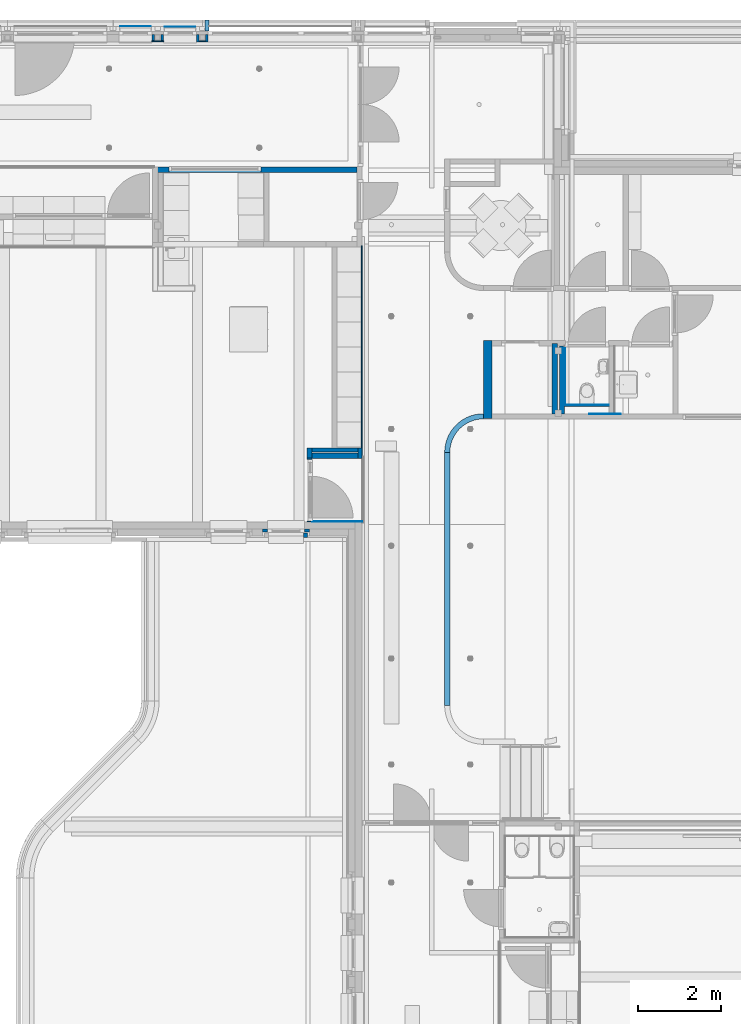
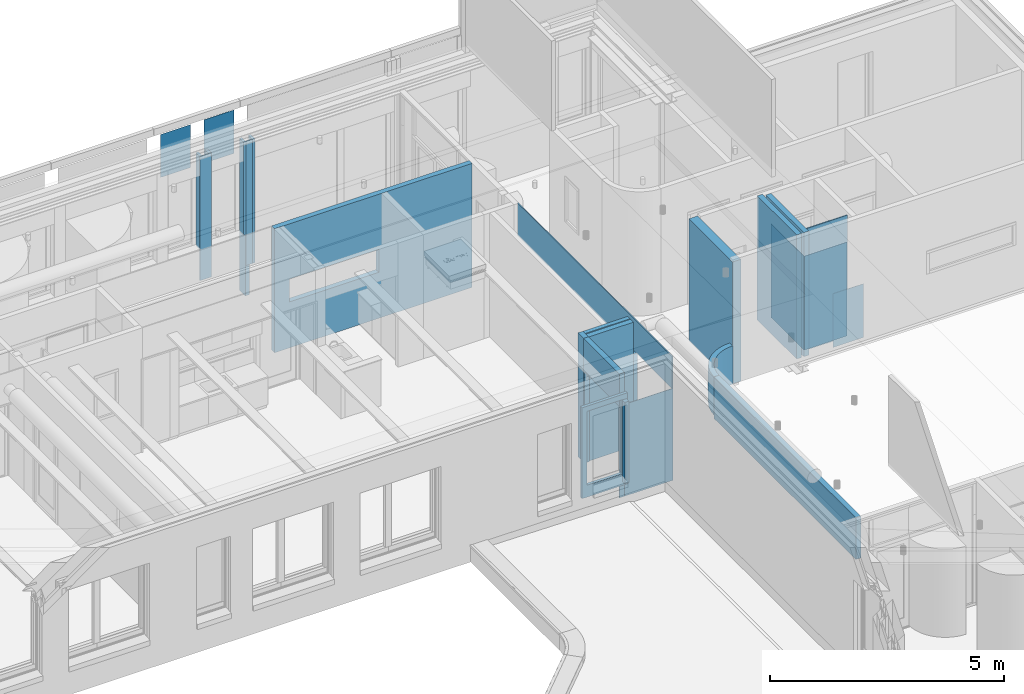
# One storey, part 55 of 128: 28 walls, 6 openings.
"""IFC2X3 building model written with IfcOpenShell, lengths in millimetres."""

from ifc_helpers import new_model, entity, si_unit, converted_unit, derived_unit, direction, frame, frame_2d, origin, place, context, subcontext, project, spatial, polyline, circle_curve, parameter, trimmed, segment, composite_curve, rectangle, outline, extrude, material, layer, layer_set, layer_usage, type_object, element, save


model = new_model("IFC2X3")

# Units and contexts
model_context = context("Model", 3, precision=0.01, world=origin(), true_north=direction((6.123031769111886e-17, 1.0)))
body_context = subcontext(model_context, "Body", "Model", "MODEL_VIEW")
ifc_project = project(units=[si_unit("LENGTHUNIT", "METRE", prefix="MILLI"), si_unit("AREAUNIT", "SQUARE_METRE"), si_unit("VOLUMEUNIT", "CUBIC_METRE"), converted_unit("PLANEANGLEUNIT", "DEGREE", entity("IfcRatioMeasure", 0.017453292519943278), si_unit("PLANEANGLEUNIT", "RADIAN"), dimensions=[0, 0, 0, 0, 0, 0, 0]), si_unit("MASSUNIT", "GRAM", prefix="KILO"), derived_unit("MASSDENSITYUNIT", [(si_unit("MASSUNIT", "GRAM", prefix="KILO"), 1), (si_unit("LENGTHUNIT", "METRE"), -3)]), derived_unit("IONCONCENTRATIONUNIT", [(si_unit("MASSUNIT", "GRAM", prefix="KILO"), 1), (si_unit("LENGTHUNIT", "METRE"), -3)]), derived_unit("MOMENTOFINERTIAUNIT", [(si_unit("LENGTHUNIT", "METRE"), 4)]), si_unit("TIMEUNIT", "SECOND"), si_unit("FREQUENCYUNIT", "HERTZ"), si_unit("THERMODYNAMICTEMPERATUREUNIT", "DEGREE_CELSIUS"), derived_unit("THERMALTRANSMITTANCEUNIT", [(si_unit("MASSUNIT", "GRAM", prefix="KILO"), 1), (si_unit("THERMODYNAMICTEMPERATUREUNIT", "KELVIN"), -1), (si_unit("TIMEUNIT", "SECOND"), -3)]), derived_unit("THERMALCONDUCTANCEUNIT", [(si_unit("MASSUNIT", "GRAM", prefix="KILO"), 1), (si_unit("THERMODYNAMICTEMPERATUREUNIT", "KELVIN"), -1), (si_unit("TIMEUNIT", "SECOND"), -3), (si_unit("LENGTHUNIT", "METRE"), 1)]), derived_unit("VOLUMETRICFLOWRATEUNIT", [(si_unit("LENGTHUNIT", "METRE"), 3), (si_unit("TIMEUNIT", "SECOND"), -1)]), derived_unit("MASSFLOWRATEUNIT", [(si_unit("MASSUNIT", "GRAM", prefix="KILO"), 1), (si_unit("TIMEUNIT", "SECOND"), -1)]), derived_unit("ROTATIONALFREQUENCYUNIT", [(si_unit("TIMEUNIT", "SECOND"), -1)]), si_unit("ELECTRICCURRENTUNIT", "AMPERE"), si_unit("ELECTRICVOLTAGEUNIT", "VOLT"), si_unit("POWERUNIT", "WATT"), si_unit("FORCEUNIT", "NEWTON", prefix="KILO"), si_unit("ILLUMINANCEUNIT", "LUX"), si_unit("LUMINOUSFLUXUNIT", "LUMEN"), si_unit("LUMINOUSINTENSITYUNIT", "CANDELA"), derived_unit("USERDEFINED", [(si_unit("MASSUNIT", "GRAM", prefix="KILO"), -1), (si_unit("LENGTHUNIT", "METRE"), -2), (si_unit("TIMEUNIT", "SECOND"), 3), (si_unit("LUMINOUSFLUXUNIT", "LUMEN"), 1)]), derived_unit("USERDEFINED", [(si_unit("MASSUNIT", "GRAM", prefix="KILO"), 1), (si_unit("TIMEUNIT", "SECOND"), -3), (si_unit("LENGTHUNIT", "METRE"), 3), (si_unit("ELECTRICCURRENTUNIT", "AMPERE"), -2)]), derived_unit("SOUNDPOWERUNIT", [(si_unit("MASSUNIT", "GRAM", prefix="KILO"), 1), (si_unit("TIMEUNIT", "SECOND"), -3), (si_unit("LENGTHUNIT", "METRE"), 2)]), derived_unit("SOUNDPRESSUREUNIT", [(si_unit("MASSUNIT", "GRAM", prefix="KILO"), 1), (si_unit("LENGTHUNIT", "METRE"), -1), (si_unit("TIMEUNIT", "SECOND"), -2)]), derived_unit("LINEARVELOCITYUNIT", [(si_unit("LENGTHUNIT", "METRE"), 1), (si_unit("TIMEUNIT", "SECOND"), -1)]), si_unit("PRESSUREUNIT", "PASCAL"), derived_unit("USERDEFINED", [(si_unit("MASSUNIT", "GRAM", prefix="KILO"), 1), (si_unit("LENGTHUNIT", "METRE"), -2), (si_unit("TIMEUNIT", "SECOND"), -2)]), derived_unit("LINEARFORCEUNIT", [(si_unit("MASSUNIT", "GRAM", prefix="KILO"), 1), (si_unit("TIMEUNIT", "SECOND"), -2)]), derived_unit("PLANARFORCEUNIT", [(si_unit("MASSUNIT", "GRAM", prefix="KILO"), 1), (si_unit("LENGTHUNIT", "METRE"), -1), (si_unit("TIMEUNIT", "SECOND"), -2)]), derived_unit("SPECIFICHEATCAPACITYUNIT", [(si_unit("THERMODYNAMICTEMPERATUREUNIT", "KELVIN"), -1), (si_unit("LENGTHUNIT", "METRE"), 2), (si_unit("TIMEUNIT", "SECOND"), -2)]), derived_unit("HEATINGVALUEUNIT", [(si_unit("LENGTHUNIT", "METRE"), 2), (si_unit("TIMEUNIT", "SECOND"), -2)]), derived_unit("VAPORPERMEABILITYUNIT", [(si_unit("LENGTHUNIT", "METRE"), -1), (si_unit("TIMEUNIT", "SECOND"), 1)]), derived_unit("DYNAMICVISCOSITYUNIT", [(si_unit("MASSUNIT", "GRAM", prefix="KILO"), 1), (si_unit("TIMEUNIT", "SECOND"), -1), (si_unit("LENGTHUNIT", "METRE"), -1)]), derived_unit("THERMALEXPANSIONCOEFFICIENTUNIT", [(si_unit("THERMODYNAMICTEMPERATUREUNIT", "KELVIN"), -1)]), derived_unit("MODULUSOFELASTICITYUNIT", [(si_unit("MASSUNIT", "GRAM", prefix="KILO"), 1), (si_unit("LENGTHUNIT", "METRE"), -1), (si_unit("TIMEUNIT", "SECOND"), -2)]), derived_unit("ISOTHERMALMOISTURECAPACITYUNIT", [(si_unit("LENGTHUNIT", "METRE"), 3), (si_unit("MASSUNIT", "GRAM", prefix="KILO"), -1)]), derived_unit("MOISTUREDIFFUSIVITYUNIT", [(si_unit("TIMEUNIT", "SECOND"), -1), (si_unit("LENGTHUNIT", "METRE"), 2)])], contexts=[model_context])

# Site, building, storey
site_placement = place(None, frame((0.0, 300.0, 0.0)))
site = spatial("IfcSite", under=ifc_project, at=site_placement, Name="<Kadastrale nummers>", CompositionType="ELEMENT")
building_placement = place(site_placement, origin())
building = spatial("IfcBuilding", under=site, at=building_placement, CompositionType="ELEMENT")
storey_placement = place(building_placement, frame((0.0, 0.0, 3560.0000331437)))
storey = spatial("IfcBuildingStorey", under=building, at=storey_placement, Name="01 eerste verdieping", CompositionType="ELEMENT", Elevation=3560.0000331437)

# Walls
ifc_material_1 = material(Name="ISR_Metselwerk")
ifc_layer_1 = layer(ifc_material_1, 100.0)
ifc_layer_set_1 = layer_set([ifc_layer_1], Name="Basic Wall:21_DAT_metselwerk_100")
ifc_layer_usage_1 = layer_usage(ifc_layer_set_1, "AXIS2", "POSITIVE", -50.0)
wall_type_1 = type_object("IfcWallType", Name="Basic Wall:21_DAT_metselwerk_100", PredefinedType="STANDARD", material=ifc_layer_set_1)
wall_1_placement = place(storey_placement, frame((32980.0, 49960.0, -910.0000331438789), z_axis=(0.0, 0.0, 1.0), x_axis=(0.0, 1.0, 0.0)))
element("IfcWallStandardCase", 1, at=wall_1_placement, inside=storey, type_object=wall_type_1, material=ifc_layer_usage_1, Name="Basic Wall:21_DAT_metselwerk_100", ObjectType="Basic Wall:21_DAT_metselwerk_100", context=body_context, shape_type="SweptSolid", body=[
    extrude(rectangle(XDim=264.99999999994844, YDim=100.00000000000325, at=frame_2d((132.49999999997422, 0.0), x_axis=(-1.0, 0.0))), origin(), (0.0, 0.0, 1.0), 1800.0000350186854),
])
ifc_layer_usage_2 = layer_usage(ifc_layer_set_1, "AXIS2", "NEGATIVE", 50.0)
wall_2_placement = place(storey_placement, frame((35344.0, 37825.0, 715.0000018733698), z_axis=(0.0, 0.0, 1.0), x_axis=(0.0, 1.0, 0.0)))
element("IfcWallStandardCase", 2, at=wall_2_placement, inside=storey, type_object=wall_type_1, material=ifc_layer_usage_2, Name="Basic Wall:21_DAT_metselwerk_100", ObjectType="Basic Wall:21_DAT_metselwerk_100", context=body_context, shape_type="SweptSolid", body=[
    extrude(rectangle(XDim=110.00000000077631, YDim=100.00000000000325, at=frame_2d((55.000000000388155, -8.171241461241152e-14), x_axis=(-1.0, 0.0))), origin(), (0.0, 0.0, 1.0), 2125.0000000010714),
])
ifc_material_2 = material(Name="ISR_Gips")
ifc_layer_2 = layer(ifc_material_2, 1.0)
ifc_material_3 = material(Name="ISR_Binnenwand")
ifc_layer_3 = layer(ifc_material_3, 123.0)
ifc_layer_4 = layer(ifc_material_2, 1.0)
ifc_layer_set_2 = layer_set([ifc_layer_2, ifc_layer_3, ifc_layer_4], Name="Basic Wall:22_DAT_binnenwand_125")
ifc_layer_usage_3 = layer_usage(ifc_layer_set_2, "AXIS2", "NEGATIVE", 62.50000000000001)
wall_type_2 = type_object("IfcWallType", Name="Basic Wall:22_DAT_binnenwand_125", PredefinedType="STANDARD", material=ifc_layer_set_2)
wall_3_placement = place(storey_placement, frame((38737.500000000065, 33795.0, 0.0), z_axis=(0.0, 0.0, 1.0), x_axis=(0.0, 1.0, 0.0)))
element("IfcWallStandardCase", 3, at=wall_3_placement, inside=storey, type_object=wall_type_2, material=ifc_layer_usage_3, Name="Basic Wall:22_DAT_binnenwand_125", ObjectType="Basic Wall:22_DAT_binnenwand_125", context=body_context, shape_type="SweptSolid", body=[
    extrude(rectangle(XDim=6070.000000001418, YDim=124.99999999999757, at=frame_2d((3035.000000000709, 0.0), x_axis=(-1.0, 0.0))), origin(), (0.0, 0.0, 1.0), 1090.0000000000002),
])
wall_4_placement = place(storey_placement, frame((39599.99980045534, 40727.50000000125, 90.00000187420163), z_axis=(0.0, 0.0, 1.0), x_axis=(-1.0, 0.0, 0.0)))
element("IfcWallStandardCase", 4, at=wall_4_placement, inside=storey, type_object=wall_type_2, material=ifc_layer_usage_3, Name="Basic Wall:22_DAT_binnenwand_125", ObjectType="Basic Wall:22_DAT_binnenwand_125", context=body_context, shape_type="SweptSolid", body=[
    extrude(outline(composite_curve([segment(trimmed(circle_curve(frame_2d((-0.00019954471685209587, 862.4999999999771), x_axis=(1.0, 0.0)), 800.0), [parameter(270.0000132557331)], [parameter(7.124442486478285e-13)], True, "PARAMETER"), False, "CONTINUOUS"), segment(polyline([(-1.4459758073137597e-05, 62.49999999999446), (1.4459758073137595e-05, -62.49999999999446)]), True, "CONTINUOUS"), segment(trimmed(circle_curve(frame_2d((-0.00019954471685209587, 862.4999999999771), x_axis=(1.0, 0.0)), 925.0000000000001), [parameter(270.0000132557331)], [parameter(6.87457811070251e-13)], True, "PARAMETER"), True, "CONTINUOUS"), segment(polyline([(924.999800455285, 862.4999999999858), (799.9998004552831, 862.4999999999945)]), True, "CONTINUOUS")], self_intersect=False)), origin(), (0.0, 0.0, 1.0), 1000.0000000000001),
])
wall_5_placement = place(storey_placement, frame((41487.50000000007, 40790.0, 90.00000187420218), z_axis=(0.0, 0.0, 1.0), x_axis=(0.0, 1.0, 0.0)))
element("IfcWallStandardCase", 5, at=wall_5_placement, inside=storey, type_object=wall_type_2, material=ifc_layer_usage_3, Name="Basic Wall:22_DAT_binnenwand_125", ObjectType="Basic Wall:22_DAT_binnenwand_125", context=body_context, shape_type="SweptSolid", body=[
    extrude(rectangle(XDim=1625.1250026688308, YDim=125.00000000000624, at=frame_2d((812.5625013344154, 0.0), x_axis=(-1.0, 0.0))), origin(), (0.0, 0.0, 1.0), 3239.9999999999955),
])
wall_6_placement = place(storey_placement, frame((41312.500000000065, 40790.0, 90.0000018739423), z_axis=(0.0, 0.0, 1.0), x_axis=(0.0, 1.0, 0.0)))
element("IfcWallStandardCase", 6, at=wall_6_placement, inside=storey, type_object=wall_type_2, material=ifc_layer_usage_3, Name="Basic Wall:22_DAT_binnenwand_125", ObjectType="Basic Wall:22_DAT_binnenwand_125", context=body_context, shape_type="SweptSolid", body=[
    extrude(rectangle(XDim=1689.6250026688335, YDim=125.00000000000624, at=frame_2d((844.8125013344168, 0.0), x_axis=(-1.0, 0.0))), origin(), (0.0, 0.0, 1.0), 3240.0000290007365),
])

# Wall, opening
wall_7_placement = place(storey_placement, frame((31692.0, 46637.49999999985, 90.00000187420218)))
wall_7 = element("IfcWallStandardCase", 7, at=wall_7_placement, inside=storey, type_object=wall_type_2, material=ifc_layer_usage_3, Name="Basic Wall:22_DAT_binnenwand_125", ObjectType="Basic Wall:22_DAT_binnenwand_125", context=body_context, shape_type="SweptSolid", body=[
    extrude(rectangle(XDim=4883.000000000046, YDim=125.00000000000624, at=frame_2d((2441.500000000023, -1.1013412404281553e-13), x_axis=(-1.0, 0.0))), origin(), (0.0, 0.0, 1.0), 3239.9999999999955),
])
opening_1_placement = place(wall_7_placement, origin())
element("IfcOpeningElement", 8, at=opening_1_placement, cuts=wall_7, Name="Basic Wall:22_DAT_binnenwand_125", ObjectType="Opening", context=body_context, shape_type="SweptSolid", body=[
    extrude(rectangle(XDim=600.0000000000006, YDim=2205.0000000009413, at=frame_2d((-2.8421709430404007e-13, 2.1600499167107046e-12), x_axis=(1.0, 0.0))), frame((1476.5000717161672, -214.90000000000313, 1500.0), z_axis=(0.0, 1.0, 0.0), x_axis=(0.0, 0.0, 1.0)), (0.0, 0.0, 1.0), 429.79999999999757),
])

# Walls
wall_8_placement = place(storey_placement, frame((35437.50000000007, 39732.0, 90.00000187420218), z_axis=(0.0, 0.0, 1.0), x_axis=(0.0, 1.0, 0.0)))
element("IfcWallStandardCase", 9, at=wall_8_placement, inside=storey, type_object=wall_type_2, material=ifc_layer_usage_3, Name="Basic Wall:22_DAT_binnenwand_125", ObjectType="Basic Wall:22_DAT_binnenwand_125", context=body_context, shape_type="SweptSolid", body=[
    extrude(rectangle(XDim=237.9999999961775, YDim=124.99999999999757, at=frame_2d((118.99999999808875, 0.0), x_axis=(-1.0, 0.0))), origin(), (0.0, 0.0, 1.0), 3239.9999999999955),
])
ifc_layer_5 = layer(ifc_material_2, 1.0)
ifc_material_4 = material(Name="ISR_Kalkzandsteen")
ifc_layer_6 = layer(ifc_material_4, 212.0)
ifc_layer_7 = layer(ifc_material_2, 1.0)
ifc_layer_set_3 = layer_set([ifc_layer_5, ifc_layer_6, ifc_layer_7], Name="Basic Wall:28_DAT_kalkzandsteen_214mm")
ifc_layer_usage_4 = layer_usage(ifc_layer_set_3, "AXIS2", "NEGATIVE", 107.0)
wall_type_3 = type_object("IfcWallType", Name="Basic Wall:28_DAT_kalkzandsteen_214mm", PredefinedType="STANDARD", material=ifc_layer_set_3)
wall_9_placement = place(storey_placement, frame((39706.99978599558, 40677.50000000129, 90.00000187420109), z_axis=(0.0, 0.0, 1.0), x_axis=(0.0, 1.0, 0.0)))
element("IfcWallStandardCase", 10, at=wall_9_placement, inside=storey, type_object=wall_type_3, material=ifc_layer_usage_4, Name="Basic Wall:28_DAT_kalkzandsteen_214mm", ObjectType="Basic Wall:28_DAT_kalkzandsteen_214mm", context=body_context, shape_type="SweptSolid", body=[
    extrude(rectangle(XDim=1862.6250026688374, YDim=214.00000000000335, at=frame_2d((931.3125013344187, -2.1316282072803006e-14), x_axis=(-1.0, 0.0))), origin(), (0.0, 0.0, 1.0), 3180.0000205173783),
])
ifc_layer_8 = layer(ifc_material_3, 100.0)
ifc_layer_set_4 = layer_set([ifc_layer_8], Name="Basic Wall:22_DAT_binnenwand_100")
ifc_layer_usage_5 = layer_usage(ifc_layer_set_4, "AXIS2", "NEGATIVE", 50.0)
wall_type_4 = type_object("IfcWallType", Name="Basic Wall:22_DAT_binnenwand_100", PredefinedType="STANDARD", material=ifc_layer_set_4)
wall_10_placement = place(storey_placement, frame((35500.0, 39920.0, 90.00000187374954)))
element("IfcWallStandardCase", 11, at=wall_10_placement, inside=storey, type_object=wall_type_4, material=ifc_layer_usage_5, Name="Basic Wall:22_DAT_binnenwand_100", ObjectType="Basic Wall:22_DAT_binnenwand_100", context=body_context, shape_type="SweptSolid", body=[
    extrude(rectangle(XDim=1099.9999999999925, YDim=99.99999999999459, at=frame_2d((549.9999999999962, 0.0), x_axis=(-1.0, 0.0))), origin(), (0.0, 0.0, 1.0), 3240.000000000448),
])

# Wall, openings
wall_11_placement = place(storey_placement, frame((36650.0, 39970.0, 90.00000187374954), z_axis=(0.0, 0.0, 1.0), x_axis=(0.0, -1.0, 0.0)))
wall_11 = element("IfcWallStandardCase", 12, at=wall_11_placement, inside=storey, type_object=wall_type_4, material=ifc_layer_usage_5, Name="Basic Wall:22_DAT_binnenwand_100", ObjectType="Basic Wall:22_DAT_binnenwand_100", context=body_context, shape_type="SweptSolid", body=[
    extrude(rectangle(XDim=249.99999999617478, YDim=100.00000000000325, at=frame_2d((124.99999999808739, 0.0), x_axis=(-1.0, 0.0))), origin(), (0.0, 0.0, 1.0), 2400.0000226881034),
])
opening_2_placement = place(wall_11_placement, origin())
element("IfcOpeningElement", 13, at=opening_2_placement, cuts=wall_11, Name="Basic Wall:22_DAT_binnenwand_100", ObjectType="Opening", context=body_context, shape_type="SweptSolid", body=[
    extrude(rectangle(XDim=2390.0000000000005, YDim=1034.0000000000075, at=frame_2d((0.0, 0.0), x_axis=(0.0, 1.0))), frame((-5917.109749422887, -202.3999999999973, 1195.0), z_axis=(0.0, 1.0, 0.0), x_axis=(-1.0, 0.0, 0.0)), (0.0, 0.0, 1.0), 404.79999999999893),
])
opening_3_placement = place(wall_11_placement, origin())
element("IfcOpeningElement", 14, at=opening_3_placement, cuts=wall_11, Name="Basic Wall:22_DAT_binnenwand_100", ObjectType="Opening", context=body_context, shape_type="SweptSolid", body=[
    extrude(rectangle(XDim=3189.9999999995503, YDim=2969.9999999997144, at=frame_2d((-2.2737367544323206e-13, -4.433786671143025e-12), x_axis=(1.0, 0.0))), frame((-8230.0, -202.3999999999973, 1595.0), z_axis=(0.0, 1.0, 0.0), x_axis=(0.0, 0.0, 1.0)), (0.0, 0.0, 1.0), 404.79999999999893),
])

# Wall, opening
ifc_layer_9 = layer(ifc_material_3, 113.0)
ifc_material_5 = material(Name="ISR_HPL Kleur hout")
ifc_layer_10 = layer(ifc_material_5, 12.0)
ifc_layer_set_5 = layer_set([ifc_layer_9, ifc_layer_10], Name="Basic Wall:22_DAT_binnenwand_125 HPL")
ifc_layer_usage_6 = layer_usage(ifc_layer_set_5, "AXIS2", "NEGATIVE", 62.49999999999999)
wall_type_5 = type_object("IfcWallType", Name="Basic Wall:22_DAT_binnenwand_125 HPL", PredefinedType="STANDARD", material=ifc_layer_set_5)
wall_12_placement = place(storey_placement, frame((35437.50000000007, 38200.0, 90.00000187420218), z_axis=(0.0, 0.0, 1.0), x_axis=(0.0, 1.0, 0.0)))
wall_12 = element("IfcWallStandardCase", 15, at=wall_12_placement, inside=storey, type_object=wall_type_5, material=ifc_layer_usage_6, Name="Basic Wall:22_DAT_binnenwand_125 HPL", ObjectType="Basic Wall:22_DAT_binnenwand_125 HPL", context=body_context, shape_type="SweptSolid", body=[
    extrude(rectangle(XDim=1532.0000000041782, YDim=125.0000000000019, at=frame_2d((766.0000000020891, -2.1671553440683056e-12), x_axis=(1.0, 0.0))), origin(), (0.0, 0.0, 1.0), 3239.9999999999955),
])
opening_4_placement = place(wall_12_placement, origin())
element("IfcOpeningElement", 16, at=opening_4_placement, cuts=wall_12, Name="Basic Wall:22_DAT_binnenwand_125 HPL", ObjectType="Opening", context=body_context, shape_type="SweptSolid", body=[
    extrude(rectangle(XDim=2390.0, YDim=1469.999999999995, at=frame_2d((0.0, 3.410605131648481e-13), x_axis=(0.0, 1.0))), frame((760.0, -214.90000000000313, 1195.0), z_axis=(0.0, 1.0, 0.0), x_axis=(-1.0, 0.0, 0.0)), (0.0, 0.0, 1.0), 429.8000000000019),
])

# Walls
wall_13_placement = place(storey_placement, frame((35500.0, 39782.50000000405, 90.00000187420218)))
element("IfcWallStandardCase", 17, at=wall_13_placement, inside=storey, type_object=wall_type_5, material=ifc_layer_usage_6, Name="Basic Wall:22_DAT_binnenwand_125 HPL", ObjectType="Basic Wall:22_DAT_binnenwand_125 HPL", context=body_context, shape_type="SweptSolid", body=[
    extrude(rectangle(XDim=1099.9999999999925, YDim=125.00000000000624, at=frame_2d((549.9999999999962, 0.0), x_axis=(-1.0, 0.0))), origin(), (0.0, 0.0, 1.0), 3239.9999999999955),
])
ifc_layer_11 = layer(ifc_material_2, 1.0)
ifc_layer_12 = layer(ifc_material_3, 23.0)
ifc_layer_13 = layer(ifc_material_2, 1.0)
ifc_layer_set_6 = layer_set([ifc_layer_11, ifc_layer_12, ifc_layer_13], Name="Basic Wall:22_DAT_binnenwand_25")
ifc_layer_usage_7 = layer_usage(ifc_layer_set_6, "AXIS2", "NEGATIVE", 12.499999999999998)
wall_type_6 = type_object("IfcWallType", Name="Basic Wall:22_DAT_binnenwand_25", PredefinedType="STANDARD", material=ifc_layer_set_6)
wall_14_placement = place(storey_placement, frame((41550.0, 40987.49947471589, 90.00000187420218)))
element("IfcWallStandardCase", 18, at=wall_14_placement, inside=storey, type_object=wall_type_6, material=ifc_layer_usage_7, Name="Basic Wall:22_DAT_binnenwand_25", ObjectType="Basic Wall:22_DAT_binnenwand_25", context=body_context, shape_type="SweptSolid", body=[
    extrude(rectangle(XDim=1063.9999999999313, YDim=24.999999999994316, at=frame_2d((531.9999999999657, 0.0), x_axis=(-1.0, 0.0))), origin(), (0.0, 0.0, 1.0), 3170.0000000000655),
])

# Wall, opening
wall_15_placement = place(storey_placement, frame((36687.500000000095, 44810.0, 2490.000024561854), z_axis=(0.0, 0.0, 1.0), x_axis=(0.0, -1.0, 0.0)))
wall_15 = element("IfcWallStandardCase", 19, at=wall_15_placement, inside=storey, type_object=wall_type_6, material=ifc_layer_usage_7, Name="Basic Wall:22_DAT_binnenwand_25", ObjectType="Basic Wall:22_DAT_binnenwand_25", context=body_context, shape_type="SweptSolid", body=[
    extrude(rectangle(XDim=6610.000000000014, YDim=25.000000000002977, at=frame_2d((3305.000000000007, -1.7053025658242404e-13), x_axis=(-1.0, 0.0))), origin(), (0.0, 0.0, 1.0), 839.9999773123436),
])
opening_5_placement = place(wall_15_placement, origin())
element("IfcOpeningElement", 20, at=opening_5_placement, cuts=wall_15, Name="Basic Wall:22_DAT_binnenwand_25", ObjectType="Opening", context=body_context, shape_type="SweptSolid", body=[
    extrude(rectangle(XDim=3189.9999999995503, YDim=2969.9999999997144, at=frame_2d((-2.2737367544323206e-13, -4.433786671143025e-12), x_axis=(1.0, 0.0))), frame((-3390.0, -164.89999999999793, -805.0000226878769), z_axis=(0.0, 1.0, 0.0), x_axis=(0.0, 0.0, 1.0)), (0.0, 0.0, 1.0), 329.79999999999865),
])

# Walls
ifc_layer_usage_8 = layer_usage(ifc_layer_set_6, "AXIS2", "POSITIVE", -12.499999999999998)
wall_16_placement = place(storey_placement, frame((32950.0, 49712.50000000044, 90.00000187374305), z_axis=(0.0, 0.0, 1.0), x_axis=(-1.0, 0.0, 0.0)))
element("IfcWallStandardCase", 21, at=wall_16_placement, inside=storey, type_object=wall_type_6, material=ifc_layer_usage_8, Name="Basic Wall:22_DAT_binnenwand_25", ObjectType="Basic Wall:22_DAT_binnenwand_25", context=body_context, shape_type="SweptSolid", body=[
    extrude(rectangle(XDim=159.9999999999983, YDim=24.999999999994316, at=frame_2d((79.99999999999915, -3.4727776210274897e-12), x_axis=(-1.0, 0.0))), origin(), (0.0, 0.0, 1.0), 3240.000000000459),
])
wall_17_placement = place(storey_placement, frame((31940.0, 49712.499999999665, 90.00000187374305), z_axis=(0.0, 0.0, 1.0), x_axis=(-1.0, 0.0, 0.0)))
element("IfcWallStandardCase", 22, at=wall_17_placement, inside=storey, type_object=wall_type_6, material=ifc_layer_usage_8, Name="Basic Wall:22_DAT_binnenwand_25", ObjectType="Basic Wall:22_DAT_binnenwand_25", context=body_context, shape_type="SweptSolid", body=[
    extrude(rectangle(XDim=279.99999999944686, YDim=24.999999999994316, at=frame_2d((139.99999999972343, 0.0), x_axis=(-1.0, 0.0))), origin(), (0.0, 0.0, 1.0), 3240.000000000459),
])
ifc_material_6 = material(Name="STAAL_RAL 7006")
ifc_layer_14 = layer(ifc_material_6, 2.0)
ifc_layer_set_7 = layer_set([ifc_layer_14], Name="Basic Wall:21_DAT_zetwerk_2")
ifc_layer_usage_9 = layer_usage(ifc_layer_set_7, "AXIS2", "NEGATIVE", 1.000000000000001)
wall_type_7 = type_object("IfcWallType", Name="Basic Wall:21_DAT_zetwerk_2", PredefinedType="STANDARD", material=ifc_layer_set_7)
wall_18_placement = place(storey_placement, frame((31968.0, 50064.0, 2829.999966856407)))
element("IfcWallStandardCase", 23, at=wall_18_placement, inside=storey, type_object=wall_type_7, material=ifc_layer_usage_9, Name="Basic Wall:21_DAT_zetwerk_2", ObjectType="Basic Wall:21_DAT_zetwerk_2", context=body_context, shape_type="SweptSolid", body=[
    extrude(rectangle(XDim=733.9999999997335, YDim=1.9999999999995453, at=frame_2d((366.99999999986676, 0.0), x_axis=(-1.0, 0.0))), origin(), (0.0, 0.0, 1.0), 1135.000000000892),
])
wall_19_placement = place(storey_placement, frame((30898.0, 50071.0, 2829.9999668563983)))
element("IfcWallStandardCase", 24, at=wall_19_placement, inside=storey, type_object=wall_type_7, material=ifc_layer_usage_9, Name="Basic Wall:21_DAT_zetwerk_2", ObjectType="Basic Wall:21_DAT_zetwerk_2", context=body_context, shape_type="SweptSolid", body=[
    extrude(rectangle(XDim=733.9999999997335, YDim=1.9999999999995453, at=frame_2d((366.99999999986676, 0.0), x_axis=(-1.0, 0.0))), origin(), (0.0, 0.0, 1.0), 1120.0000000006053),
])
ifc_layer_15 = layer(ifc_material_2, 12.5)
ifc_layer_16 = layer(ifc_material_2, 12.5)
ifc_material_7 = material(Name="ISR_Dak_isolatie(198)")
ifc_layer_17 = layer(ifc_material_7, 140.0)
ifc_material_8 = material(Name="ISR_Multiplex")
ifc_layer_18 = layer(ifc_material_8, 10.0)
ifc_layer_set_8 = layer_set([ifc_layer_15, ifc_layer_16, ifc_layer_17, ifc_layer_18], Name="Basic Wall:21_DAT_Hekwerk 175")
ifc_layer_usage_10 = layer_usage(ifc_layer_set_8, "AXIS2", "NEGATIVE", 87.5)
wall_type_8 = type_object("IfcWallType", Name="Basic Wall:21_DAT_Hekwerk 175", PredefinedType="STANDARD", material=ifc_layer_set_8)
wall_20_placement = place(storey_placement, frame((32790.0, 49787.499999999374, 900.0000018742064), z_axis=(0.0, 0.0, 1.0), x_axis=(-1.0, 0.0, 0.0)))
element("IfcWallStandardCase", 25, at=wall_20_placement, inside=storey, type_object=wall_type_8, material=ifc_layer_usage_10, Name="Basic Wall:21_DAT_Hekwerk 175", ObjectType="Basic Wall:21_DAT_Hekwerk 175", context=body_context, shape_type="SweptSolid", body=[
    extrude(rectangle(XDim=60.00000000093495, YDim=174.99999999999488, at=frame_2d((30.000000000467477, 5.968558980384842e-13), x_axis=(-1.0, 0.0))), origin(), (0.0, 0.0, 1.0), 2429.9999999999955),
])
ifc_layer_usage_11 = layer_usage(ifc_layer_set_8, "AXIS2", "POSITIVE", -87.5)
wall_21_placement = place(storey_placement, frame((32950.0, 49787.499999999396, 90.00000187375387)))
element("IfcWallStandardCase", 26, at=wall_21_placement, inside=storey, type_object=wall_type_8, material=ifc_layer_usage_11, Name="Basic Wall:21_DAT_Hekwerk 175", ObjectType="Basic Wall:21_DAT_Hekwerk 175", context=body_context, shape_type="SweptSolid", body=[
    extrude(rectangle(XDim=59.99999999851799, YDim=174.99999999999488, at=frame_2d((29.999999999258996, 9.592326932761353e-13), x_axis=(-1.0, 0.0))), origin(), (0.0, 0.0, 1.0), 3240.000000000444),
])

# Wall, opening
ifc_material_9 = material(Name="ISR_Isolatie")
ifc_layer_19 = layer(ifc_material_9, 70.0)
ifc_layer_set_9 = layer_set([ifc_layer_19], Name="Basic Wall:21_DAT_isolatie hard_74")
ifc_layer_usage_12 = layer_usage(ifc_layer_set_9, "AXIS2", "POSITIVE", -35.0)
wall_type_9 = type_object("IfcWallType", Name="Basic Wall:21_DAT_isolatie hard_74", PredefinedType="STANDARD", material=ifc_layer_set_9)
wall_22_placement = place(storey_placement, frame((34314.0, 37990.0, 589.9999668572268)))
wall_22 = element("IfcWallStandardCase", 27, at=wall_22_placement, inside=storey, type_object=wall_type_9, material=ifc_layer_usage_12, Name="Basic Wall:21_DAT_isolatie hard_74", ObjectType="Basic Wall:21_DAT_isolatie hard_74", context=body_context, shape_type="SweptSolid", body=[
    extrude(rectangle(XDim=1119.999999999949, YDim=70.00000000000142, at=frame_2d((559.9999999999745, -7.993605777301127e-13), x_axis=(-1.0, 0.0))), origin(), (0.0, 0.0, 1.0), 2375.000035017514),
])
opening_6_placement = place(wall_22_placement, origin())
element("IfcOpeningElement", 28, at=opening_6_placement, cuts=wall_22, Name="Basic Wall:21_DAT_isolatie hard_74", ObjectType="Opening", context=body_context, shape_type="SweptSolid", body=[
    extrude(rectangle(XDim=1929.9999999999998, YDim=879.9999999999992, at=frame_2d((5.684341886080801e-13, 0.0), x_axis=(1.0, 0.0))), frame((560.0, -187.40000000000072, 1275.0000350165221), z_axis=(0.0, 1.0, 0.0), x_axis=(0.0, 0.0, 1.0)), (0.0, 0.0, 1.0), 374.80000000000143),
])

# Walls
ifc_material_10 = material(Name="ISR_Tegels_grijs_150x150")
ifc_layer_20 = layer(ifc_material_10, 10.0)
ifc_layer_set_10 = layer_set([ifc_layer_20], Name="Basic Wall:43_DAT_Wandtegelwerk")
ifc_layer_usage_13 = layer_usage(ifc_layer_set_10, "AXIS2", "NEGATIVE", 5.0)
wall_type_10 = type_object("IfcWallType", Name="Basic Wall:43_DAT_Wandtegelwerk", PredefinedType="STANDARD", material=ifc_layer_set_10)
wall_23_placement = place(storey_placement, frame((42890.0, 40779.99947471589, 90.00000187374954), z_axis=(0.0, 0.0, 1.0), x_axis=(-1.0, 0.0, 0.0)))
element("IfcWallStandardCase", 29, at=wall_23_placement, inside=storey, type_object=wall_type_10, material=ifc_layer_usage_13, Name="Basic Wall:43_DAT_Wandtegelwerk", ObjectType="Basic Wall:43_DAT_Wandtegelwerk", context=body_context, shape_type="SweptSolid", body=[
    extrude(rectangle(XDim=749.9999999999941, YDim=9.999999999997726, at=frame_2d((374.99999999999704, 0.0), x_axis=(-1.0, 0.0))), origin(), (0.0, 0.0, 1.0), 1400.0),
])
wall_24_placement = place(storey_placement, frame((41555.0, 42405.12500267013, 90.00000187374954), z_axis=(0.0, 0.0, 1.0), x_axis=(0.0, -1.0, 0.0)))
element("IfcWallStandardCase", 30, at=wall_24_placement, inside=storey, type_object=wall_type_10, material=ifc_layer_usage_13, Name="Basic Wall:43_DAT_Wandtegelwerk", ObjectType="Basic Wall:43_DAT_Wandtegelwerk", context=body_context, shape_type="SweptSolid", body=[
    extrude(rectangle(XDim=1405.1255279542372, YDim=9.999999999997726, at=frame_2d((702.5627639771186, 0.0), x_axis=(-1.0, 0.0))), origin(), (0.0, 0.0, 1.0), 2450.000022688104),
])
wall_25_placement = place(storey_placement, frame((41560.0, 41004.99947471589, 90.00000187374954)))
element("IfcWallStandardCase", 31, at=wall_25_placement, inside=storey, type_object=wall_type_10, material=ifc_layer_usage_13, Name="Basic Wall:43_DAT_Wandtegelwerk", ObjectType="Basic Wall:43_DAT_Wandtegelwerk", context=body_context, shape_type="SweptSolid", body=[
    extrude(rectangle(XDim=1048.9999999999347, YDim=9.999999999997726, at=frame_2d((524.4999999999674, 0.0), x_axis=(-1.0, 0.0))), origin(), (0.0, 0.0, 1.0), 2450.000022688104),
])
ifc_layer_21 = layer(ifc_material_5, 12.0)
ifc_layer_set_11 = layer_set([ifc_layer_21], Name="Basic Wall:22_DAT_binnenwand_12 HPL")
ifc_layer_usage_14 = layer_usage(ifc_layer_set_11, "AXIS2", "NEGATIVE", 6.000000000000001)
wall_type_11 = type_object("IfcWallType", Name="Basic Wall:22_DAT_binnenwand_12 HPL", PredefinedType="STANDARD", material=ifc_layer_set_11)
wall_26_placement = place(storey_placement, frame((35500.0, 38206.0, 90.00000187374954)))
element("IfcWallStandardCase", 32, at=wall_26_placement, inside=storey, type_object=wall_type_11, material=ifc_layer_usage_14, Name="Basic Wall:22_DAT_binnenwand_12 HPL", ObjectType="Basic Wall:22_DAT_binnenwand_12 HPL", context=body_context, shape_type="SweptSolid", body=[
    extrude(rectangle(XDim=1199.9999999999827, YDim=11.999999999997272, at=frame_2d((599.9999999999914, -1.0702549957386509e-13), x_axis=(-1.0, 0.0))), origin(), (0.0, 0.0, 1.0), 2400.0000226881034),
])
ifc_layer_22 = layer(ifc_material_7, 140.0)
ifc_layer_23 = layer(ifc_material_8, 10.0)
ifc_layer_set_12 = layer_set([ifc_layer_22, ifc_layer_23], Name="Basic Wall:21_DAT_Hekwerk 150")
ifc_layer_usage_15 = layer_usage(ifc_layer_set_12, "AXIS2", "NEGATIVE", 75.0)
wall_type_12 = type_object("IfcWallType", Name="Basic Wall:21_DAT_Hekwerk 150", PredefinedType="STANDARD", material=ifc_layer_set_12)
wall_27_placement = place(storey_placement, frame((31720.0, 49800.0, 900.0000018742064), z_axis=(0.0, 0.0, 1.0), x_axis=(-1.0, 0.0, 0.0)))
element("IfcWallStandardCase", 33, at=wall_27_placement, inside=storey, type_object=wall_type_12, material=ifc_layer_usage_15, Name="Basic Wall:21_DAT_Hekwerk 150", ObjectType="Basic Wall:21_DAT_Hekwerk 150", context=body_context, shape_type="SweptSolid", body=[
    extrude(rectangle(XDim=60.000000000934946, YDim=150.00000000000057, at=frame_2d((30.000000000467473, 5.968558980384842e-13), x_axis=(-1.0, 0.0))), origin(), (0.0, 0.0, 1.0), 2429.9999999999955),
])
ifc_layer_usage_16 = layer_usage(ifc_layer_set_12, "AXIS2", "POSITIVE", -75.0)
wall_28_placement = place(storey_placement, frame((31880.0, 49800.0, 900.0000018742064)))
element("IfcWallStandardCase", 34, at=wall_28_placement, inside=storey, type_object=wall_type_12, material=ifc_layer_usage_16, Name="Basic Wall:21_DAT_Hekwerk 150", ObjectType="Basic Wall:21_DAT_Hekwerk 150", context=body_context, shape_type="SweptSolid", body=[
    extrude(rectangle(XDim=59.99999999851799, YDim=150.00000000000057, at=frame_2d((29.999999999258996, 9.592326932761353e-13), x_axis=(-1.0, 0.0))), origin(), (0.0, 0.0, 1.0), 2429.9999999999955),
])

save(model, "model.ifc")
